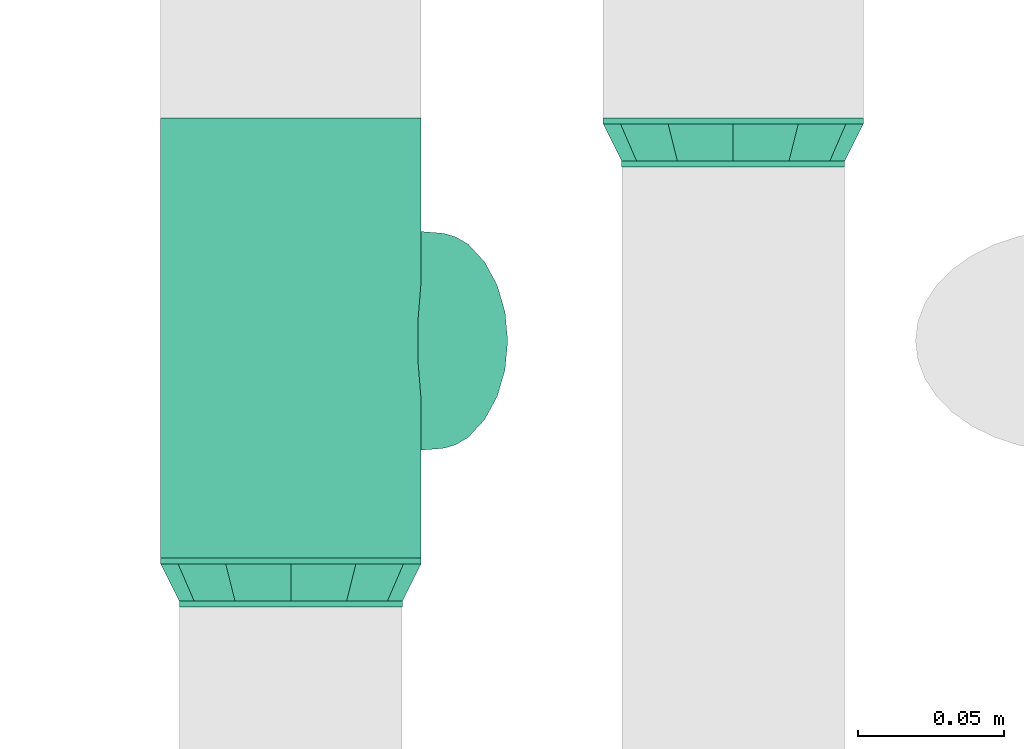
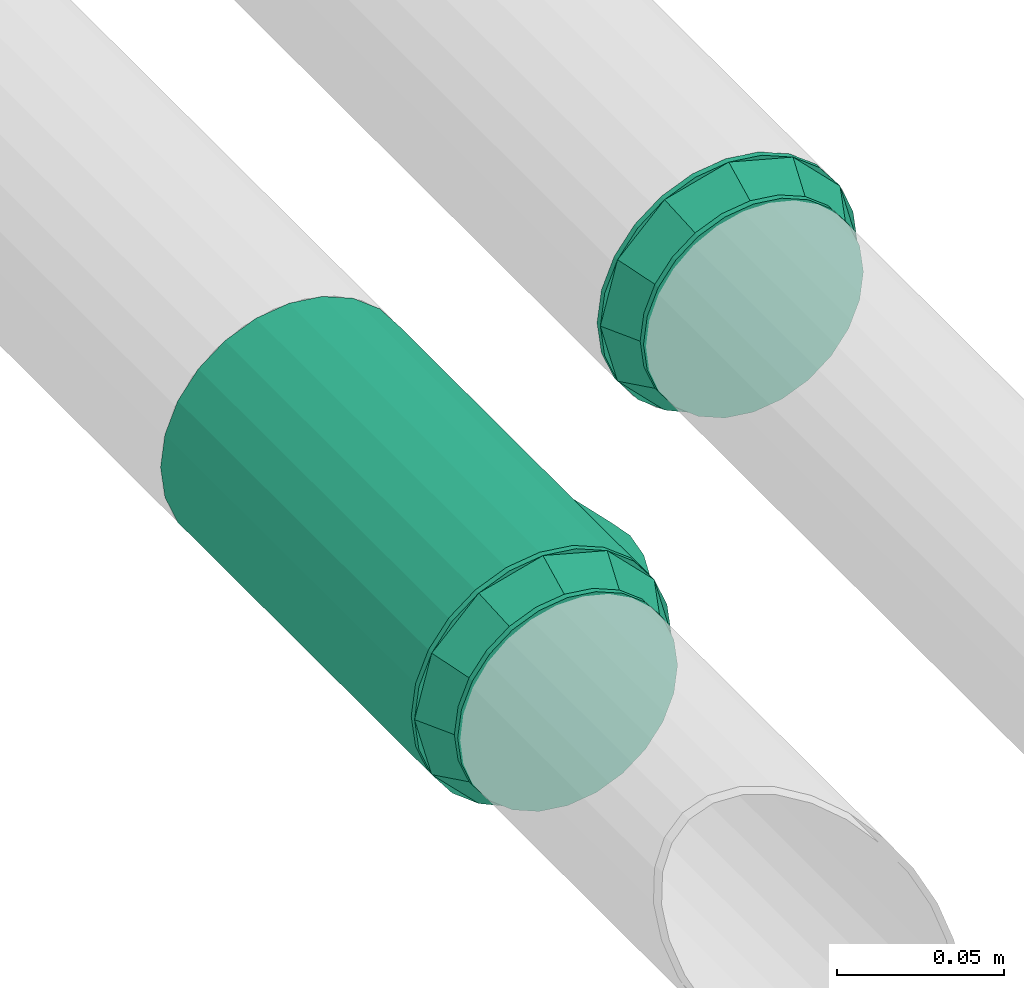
# One storey, part 119 of 156: 3 flow fittings.
"""IFC2X3 building model written with IfcOpenShell, lengths in millimetres."""

import ifcopenshell
import ifcopenshell.guid

model = None  # the IFC model being written
_history = None  # IfcOwnerHistory: only IFC2X3 demands one
_inside = {}  # id of a spatial element -> (the spatial element, [elements in it])
_under = {}  # id of a project, library or spatial element -> (it, [spatial elements below it])
_declared = {}  # id of a project -> (the project, [libraries it declares])
_typed = {}  # id of a type object -> (the type object, [elements of that type])
_made_of = {}  # id of a material, layer set ... -> (it, [elements and type objects made of it])


def new_model(schema):
    """Start an empty IFC model of exactly this schema.

    Asked for "IFC4X3", IfcOpenShell would pick the latest addendum, in which some entities
    have other attributes; the version numbers below select the first issue.
    IFC2X3 requires an IfcOwnerHistory on every rooted entity: one is made here for all.
    """
    global model, _history
    if schema == "IFC4X3":
        model = ifcopenshell.file(schema_version=(4, 3, 0, 0))
    else:
        model = ifcopenshell.file(schema=schema)
    _inside.clear()
    _under.clear()
    _declared.clear()
    _typed.clear()
    _made_of.clear()
    _history = None
    if model.schema == "IFC2X3":
        org = make("IfcOrganization", Name="unknown")
        user = make(
            "IfcPersonAndOrganization",
            ThePerson=make("IfcPerson", FamilyName="unknown"),
            TheOrganization=org,
        )
        app = make(
            "IfcApplication",
            ApplicationDeveloper=org,
            Version="unknown",
            ApplicationFullName="unknown",
            ApplicationIdentifier="unknown",
        )
        _history = make(
            "IfcOwnerHistory",
            OwningUser=user,
            OwningApplication=app,
            ChangeAction="ADDED",
            CreationDate=0,
        )
    return model


def make(cls, **values):
    """One entity of the class cls with the attributes given. An attribute that is None is left unset."""
    return model.create_entity(
        cls, **{name: value for name, value in values.items() if value is not None}
    )


def entity(cls, *values):
    """Any entity or typed value of the class cls, its attributes in the order of the schema. None: left unset."""
    e = model.create_entity(cls)
    for i, value in enumerate(values):
        if value is not None:
            e[i] = value
    return e


def rooted(cls, **values):
    """An entity with a GlobalId (a new one), such as an element, a storey or a relation."""
    return make(cls, GlobalId=ifcopenshell.guid.new(), OwnerHistory=_history, **values)


def si_unit(unit_type, name, prefix=None):
    """IfcSIUnit, for example si_unit("LENGTHUNIT", "METRE", prefix="MILLI")."""
    return make("IfcSIUnit", UnitType=unit_type, Prefix=prefix, Name=name)


def converted_unit(unit_type, name, factor, base, dimensions=None, offset=None):
    """IfcConversionBasedUnit, such as the inch: factor (a typed value) times the base unit."""
    return make(
        "IfcConversionBasedUnit"
        if offset is None
        else "IfcConversionBasedUnitWithOffset",
        ConversionOffset=offset,
        Dimensions=None
        if dimensions is None
        else entity("IfcDimensionalExponents", *dimensions),
        UnitType=unit_type,
        Name=name,
        ConversionFactor=make(
            "IfcMeasureWithUnit", ValueComponent=factor, UnitComponent=base
        ),
    )


def derived_unit(unit_type, elements):
    """IfcDerivedUnit: a product of units, each with its exponent."""
    return make(
        "IfcDerivedUnit",
        Elements=[
            make("IfcDerivedUnitElement", Unit=unit, Exponent=power)
            for unit, power in elements
        ],
        UnitType=unit_type,
    )


def assignment(units):
    """IfcUnitAssignment: the units of a project."""
    return None if units is None else make("IfcUnitAssignment", Units=units)


def point(xyz):
    """IfcCartesianPoint."""
    return None if xyz is None else make("IfcCartesianPoint", Coordinates=xyz)


def direction(xyz):
    """IfcDirection."""
    return None if xyz is None else make("IfcDirection", DirectionRatios=xyz)


def frame(location, z_axis=None, x_axis=None):
    """IfcAxis2Placement3D, a coordinate frame: its origin and axes. An axis left out is left unset."""
    return make(
        "IfcAxis2Placement3D",
        Location=point(location),
        Axis=direction(z_axis),
        RefDirection=direction(x_axis),
    )


def origin_with_axes():
    """The frame at (0, 0, 0) with the z axis (0, 0, 1) and the x axis (1, 0, 0) written out."""
    return frame((0.0, 0.0, 0.0), z_axis=(0.0, 0.0, 1.0), x_axis=(1.0, 0.0, 0.0))


def place(relative_to, where):
    """IfcLocalPlacement: puts the frame where relative to a parent placement (None: the world)."""
    return make(
        "IfcLocalPlacement", PlacementRelTo=relative_to, RelativePlacement=where
    )


def context(
    kind, dimensions, precision=None, world=None, true_north=None, identifier=None
):
    """IfcGeometricRepresentationContext, for example the 3D "Model" context."""
    return make(
        "IfcGeometricRepresentationContext",
        ContextIdentifier=identifier,
        ContextType=kind,
        CoordinateSpaceDimension=dimensions,
        Precision=precision,
        WorldCoordinateSystem=world,
        TrueNorth=true_north,
    )


def subcontext(parent, identifier, kind, view, scale=None):
    """IfcGeometricRepresentationSubContext, for example "Body" below "Model"."""
    return make(
        "IfcGeometricRepresentationSubContext",
        ContextIdentifier=identifier,
        ContextType=kind,
        ParentContext=parent,
        TargetScale=scale,
        TargetView=view,
    )


def project(units=None, contexts=None):
    """IfcProject with its units and contexts."""
    return rooted(
        "IfcProject",
        Name="project",
        RepresentationContexts=contexts,
        UnitsInContext=assignment(units),
    )


def spatial(cls, under=None, at=None, **own):
    """A site, building, storey or space (cls), placed at a placement, below another one or the project."""
    s = rooted(cls, ObjectPlacement=at, **own)
    if under is not None:
        _under.setdefault(under.id(), (under, []))[1].append(s)
    return s


def faces_of(points, faces, orient=None, outer=None):
    """IfcFace entities. A face is a list of loops; a loop is a list of indices into points, from 0.

    orient and outer hold one flag for each loop. By default every Orientation is true, the
    first loop of a face is its IfcFaceOuterBound and the others are IfcFaceBound.
    """
    made = []
    for i, loops in enumerate(faces):
        bounds = []
        for j, loop in enumerate(loops):
            is_outer = j == 0 if outer is None else outer[i][j]
            bounds.append(
                make(
                    "IfcFaceOuterBound" if is_outer else "IfcFaceBound",
                    Bound=make("IfcPolyLoop", Polygon=[points[k] for k in loop]),
                    Orientation=True if orient is None else orient[i][j],
                )
            )
        made.append(make("IfcFace", Bounds=bounds))
    return made


def open_shell(faces, orient=None, outer=None):
    """The faces of one IfcOpenShell. surface_model builds it on its shared points."""
    return ("IfcOpenShell", faces, orient, outer)


def faceted_brep(points, faces, orient=None, outer=None, voids=None):
    """IfcFacetedBrep: a solid bounded by flat faces; with voids (closed shells), ...WithVoids."""
    shared = [point(p) for p in points]
    hull = make("IfcClosedShell", CfsFaces=faces_of(shared, faces, orient, outer))
    if voids is None:
        return make("IfcFacetedBrep", Outer=hull)
    return make(
        "IfcFacetedBrepWithVoids",
        Outer=hull,
        Voids=[
            make(cls, CfsFaces=faces_of(shared, fs, o, b)) for cls, fs, o, b in voids
        ],
    )


def surface_model(cls, points, shells):
    """IfcFaceBasedSurfaceModel or IfcShellBasedSurfaceModel (cls): surfaces that need not close."""
    shared = [point(p) for p in points]
    made = [make(c, CfsFaces=faces_of(shared, fs, o, b)) for c, fs, o, b in shells]
    if cls == "IfcFaceBasedSurfaceModel":
        return make(cls, FbsmFaces=made)
    return make(cls, SbsmBoundary=made)


def shape(context_of_items, identifier, shape_type, items):
    """IfcShapeRepresentation: the items that make up one representation, for example the "Body"."""
    return make(
        "IfcShapeRepresentation",
        ContextOfItems=context_of_items,
        RepresentationIdentifier=identifier,
        RepresentationType=shape_type,
        Items=items,
    )


def source(mapping_origin, context_of_items, identifier, shape_type, items):
    """IfcRepresentationMap: a shape defined once, which mapped items show again and again."""
    return make(
        "IfcRepresentationMap",
        MappingOrigin=mapping_origin,
        MappedRepresentation=shape(context_of_items, identifier, shape_type, items),
    )


def transform(
    local_origin,
    x_axis=None,
    y_axis=None,
    z_axis=None,
    scale=None,
    scale2=None,
    scale3=None,
    uniform=True,
):
    """IfcCartesianTransformationOperator3D, or its non-uniform kind. x_axis, y_axis, z_axis: its Axis1, 2, 3."""
    if uniform:
        return make(
            "IfcCartesianTransformationOperator3D",
            Axis1=direction(x_axis),
            Axis2=direction(y_axis),
            LocalOrigin=point(local_origin),
            Scale=scale,
            Axis3=direction(z_axis),
        )
    return make(
        "IfcCartesianTransformationOperator3DnonUniform",
        Axis1=direction(x_axis),
        Axis2=direction(y_axis),
        LocalOrigin=point(local_origin),
        Scale=scale,
        Axis3=direction(z_axis),
        Scale2=scale2,
        Scale3=scale3,
    )


def mapped(mapping_source, mapping_target):
    """IfcMappedItem: shows the shape of a source again, moved by a transform."""
    return make(
        "IfcMappedItem", MappingSource=mapping_source, MappingTarget=mapping_target
    )


def made_of(thing, what):
    """Note that an element or type object is made of a material, layer set ...; save() writes the relation."""
    if what is not None:
        _made_of.setdefault(what.id(), (what, []))[1].append(thing)
    return thing


def type_object(cls, material=None, **own):
    """A type object (cls), such as IfcWallType, which elements share."""
    return made_of(rooted(cls, **own), material)


def element(
    cls,
    number,
    at=None,
    inside=None,
    cuts=None,
    type_object=None,
    material=None,
    context=None,
    identifier="Body",
    shape_type=None,
    held_by="IfcProductDefinitionShape",
    body=None,
    shapes=None,
    **own,
):
    """One element of the class cls, such as IfcWall. Its Tag is "e" and its number.

    at: its placement. inside: the storey or other place that contains it. cuts: it is an
    opening in that element (IfcRelVoidsElement). A single representation is given by context,
    identifier, shape_type and body (its items); several are given by shapes. held_by: the class
    of the entity that holds the representations. save() writes the other relations.
    """
    e = rooted(cls, Tag="e%d" % number, ObjectPlacement=at, **own)
    if body is not None:
        shapes = [shape(context, identifier, shape_type, body)]
    if shapes is not None:
        e.Representation = make(held_by, Representations=shapes)
    if inside is not None:
        _inside.setdefault(inside.id(), (inside, []))[1].append(e)
    if cuts is not None:
        rooted(
            "IfcRelVoidsElement", RelatingBuildingElement=cuts, RelatedOpeningElement=e
        )
    if type_object is not None:
        _typed.setdefault(type_object.id(), (type_object, []))[1].append(e)
    return made_of(e, material)


def aggregate(whole, parts):
    """IfcRelAggregates: a whole, such as a stair, and the parts it consists of."""
    return rooted("IfcRelAggregates", RelatingObject=whole, RelatedObjects=parts)


def save(model, path):
    """Write the relations noted so far, then the file.

    IfcRelAggregates (storeys below a building ...), IfcRelContainedInSpatialStructure (elements
    in a storey), IfcRelDefinesByType, IfcRelAssociatesMaterial and IfcRelDeclares: one each for
    every whole, place, type object, material and project.
    """
    for whole, parts in _under.values():
        aggregate(whole, parts)
    for where, things in _inside.values():
        rooted(
            "IfcRelContainedInSpatialStructure",
            RelatedElements=things,
            RelatingStructure=where,
        )
    for kind, things in _typed.values():
        rooted("IfcRelDefinesByType", RelatedObjects=things, RelatingType=kind)
    for what, things in _made_of.values():
        rooted("IfcRelAssociatesMaterial", RelatedObjects=things, RelatingMaterial=what)
    for by, libraries in _declared.values():
        rooted("IfcRelDeclares", RelatingContext=by, RelatedDefinitions=libraries)
    model.write(path)


model = new_model("IFC2X3")

# Units and contexts
model_context = context("Model", 3, precision=0.01, world=frame((0.0, 4.29681676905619e-09, 0.0)), true_north=direction((4.01073788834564e-13, 1.0)))
plan_context = context("Plan", 3, precision=0.01, world=frame((0.0, 4.29681676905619e-09, 0.0)), true_north=direction((4.01073788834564e-13, 1.0)))
body_context = subcontext(model_context, "Body", "Model", "MODEL_VIEW")
ifc_project = project(units=[converted_unit("PLANEANGLEUNIT", "DEGREE", entity("IfcPositiveLengthMeasure", 0.0174532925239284), si_unit("PLANEANGLEUNIT", "RADIAN"), dimensions=[0, 0, 0, 0, 0, 0, 0]), si_unit("AREAUNIT", "SQUARE_METRE"), si_unit("LENGTHUNIT", "METRE", prefix="MILLI"), si_unit("MASSUNIT", "GRAM", prefix="KILO"), si_unit("POWERUNIT", "WATT"), si_unit("PRESSUREUNIT", "PASCAL", prefix="KILO"), si_unit("FORCEUNIT", "NEWTON", prefix="KILO"), si_unit("ELECTRICVOLTAGEUNIT", "VOLT"), si_unit("ELECTRICCURRENTUNIT", "AMPERE"), si_unit("THERMODYNAMICTEMPERATUREUNIT", "DEGREE_CELSIUS"), si_unit("TIMEUNIT", "SECOND"), si_unit("VOLUMEUNIT", "CUBIC_METRE"), derived_unit("LINEARVELOCITYUNIT", [(si_unit("LENGTHUNIT", "METRE"), 1), (si_unit("TIMEUNIT", "SECOND"), -1)]), derived_unit("VOLUMETRICFLOWRATEUNIT", [(si_unit("VOLUMEUNIT", "CUBIC_METRE"), 1), (si_unit("TIMEUNIT", "SECOND"), -1)]), derived_unit("THERMALTRANSMITTANCEUNIT", [(si_unit("POWERUNIT", "WATT"), 1), (si_unit("THERMODYNAMICTEMPERATUREUNIT", "KELVIN"), -1), (si_unit("AREAUNIT", "SQUARE_METRE"), -1)]), derived_unit("SOUNDPRESSUREUNIT", [(si_unit("PRESSUREUNIT", "PASCAL"), 1)])], contexts=[model_context, plan_context])

# Site, building, storey
site_placement = place(None, frame((0.0, -4.29681676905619e-09, 0.0), z_axis=(0.0, 0.0, 1.0), x_axis=(1.0, 0.0, 0.0)))
site = spatial("IfcSite", under=ifc_project, at=site_placement, CompositionType="ELEMENT")
building_placement = place(site_placement, frame((0.0, 4.29681676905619e-09, 0.0), z_axis=(0.0, 0.0, 1.0), x_axis=(1.0, 0.0, 0.0)))
building = spatial("IfcBuilding", under=site, at=building_placement, Name="mc-building", CompositionType="ELEMENT")
storey_placement = place(building_placement, frame((0.0, 0.0, 205200.0), z_axis=(0.0, 0.0, 1.0), x_axis=(1.0, 0.0, 0.0)))
storey = spatial("IfcBuildingStorey", under=building, at=storey_placement, Name="Nivå D + 1,2 m", CompositionType="ELEMENT", Elevation=205200.0)

# Flow fittings
pipe_fitting_type_1 = type_object("IfcPipeFittingType", Name="magi_pipe_fe_reducer_centric_short_001", PredefinedType="TRANSITION")
shared_shape_1 = source(origin_with_axes(), body_context, "Body", "SurfaceModel", [
    surface_model("IfcShellBasedSurfaceModel", [(-2.0, 0.0, 44.5), (-2.0, 11.51745, 42.9837), (-2.0, 22.25, 38.53813), (-2.0, 31.46625, 31.46625), (-2.0, 38.53813, 22.25), (-2.0, 42.9837, 11.51745), (-2.0, -42.9837, 11.51745), (-2.0, -11.51745, 42.9837), (-2.0, -31.46625, 31.46625), (-2.0, -22.25, 38.53813), (-2.0, -38.53813, 22.25), (-2.0, -42.9837, -11.51745), (-2.0, -44.5, 0.0), (-2.0, 11.51745, -42.9837), (-2.0, 44.5, 0.0), (-2.0, 42.9837, -11.51745), (-2.0, 38.53813, -22.25), (-2.0, 31.46625, -31.46625), (-2.0, 22.25, -38.53813), (-2.0, 0.0, -44.5), (-2.0, -31.46625, -31.46625), (-2.0, -38.53813, -22.25), (-2.0, -22.25, -38.53813), (-2.0, -11.51745, -42.9837), (0.0, 22.25, -38.53813), (0.0, -42.9837, -11.51745), (0.0, 11.51745, -42.9837), (0.0, 42.9837, -11.51745), (0.0, 31.46625, -31.46625), (0.0, 44.5, 0.0), (0.0, 38.53813, -22.25), (0.0, 0.0, -44.5), (0.0, -22.25, -38.53813), (0.0, -11.51745, -42.9837), (0.0, -31.46625, -31.46625), (0.0, -38.53813, -22.25), (0.0, 42.9837, 11.51745), (0.0, 38.53813, 22.25), (0.0, 31.46625, 31.46625), (0.0, -42.9837, 11.51745), (0.0, 22.25, 38.53813), (0.0, 11.51745, 42.9837), (0.0, 0.0, 44.5), (0.0, -31.46625, 31.46625), (0.0, -38.53813, 22.25), (0.0, -44.5, 0.0), (0.0, -11.51745, 42.9837), (0.0, -22.25, 38.53813), (14.8, 9.86101, -36.80177), (14.8, 19.05, -32.99557), (14.8, 26.94077, -26.94077), (14.8, -19.05, -32.99557), (14.8, 36.80177, -9.86101), (14.8, 32.99557, -19.05), (14.8, -38.1, 0.0), (14.8, 0.0, -38.1), (14.8, -9.86101, -36.80177), (14.8, -26.94077, -26.94077), (14.8, -32.99557, -19.05), (14.8, -36.80177, -9.86101), (14.8, 38.1, 0.0), (14.8, 36.80177, 9.86101), (14.8, 32.99557, 19.05), (14.8, 26.94077, 26.94077), (14.8, 19.05, 32.99557), (14.8, 9.86101, 36.80177), (14.8, 0.0, 38.1), (14.8, -32.99557, 19.05), (14.8, -36.80177, 9.86101), (14.8, -9.86101, 36.80177), (14.8, -19.05, 32.99557), (14.8, -26.94077, 26.94077), (12.8, 0.0, 38.1), (12.8, 9.86101, 36.80177), (12.8, 19.05, 32.99557), (12.8, -32.99557, -19.05), (12.8, 26.94077, 26.94077), (12.8, 32.99557, 19.05), (12.8, 36.80177, 9.86101), (12.8, -38.1, 0.0), (12.8, -19.05, 32.99557), (12.8, -32.99557, 19.05), (12.8, -26.94077, 26.94077), (12.8, -9.86101, 36.80177), (12.8, -36.80177, 9.86101), (12.8, -19.05, -32.99557), (12.8, 36.80177, -9.86101), (12.8, 9.86101, -36.80177), (12.8, 26.94077, -26.94077), (12.8, 32.99557, -19.05), (12.8, 19.05, -32.99557), (12.8, 0.0, -38.1), (12.8, -26.94077, -26.94077), (12.8, -36.80177, -9.86101), (12.8, -9.86101, -36.80177), (12.8, 38.1, 0.0), (12.8, 26.02278, -26.02278), (0.0, 30.39407, -30.39407), (0.0, 41.51906, -11.125), (12.8, 35.54778, -9.525), (0.0, -40.63343, -14.43025), (12.8, -35.54778, -9.525), (0.0, 11.125, -41.51906), (12.8, 9.525, -35.54778), (0.0, -30.39407, -30.39407), (12.8, -26.02278, -26.02278), (0.0, -11.125, -41.51906), (12.8, -9.525, -35.54778), (12.8, -26.02278, 26.02278), (0.0, -30.39407, 30.39407), (0.0, -41.51906, 11.125), (12.8, -35.54778, 9.525), (0.0, 40.63343, 14.43025), (12.8, 35.54778, 9.525), (0.0, -11.125, 41.51906), (12.8, -9.525, 35.54778), (0.0, 30.39407, 30.39407), (12.8, 26.02278, 26.02278), (0.0, 11.125, 41.51906), (12.8, 9.525, 35.54778)], [open_shell([[[0, 1, 2]], [[0, 2, 3]], [[3, 4, 5]], [[0, 3, 6]], [[6, 3, 5]], [[7, 8, 9]], [[7, 0, 8]], [[8, 6, 10]], [[0, 6, 8]], [[6, 11, 12]], [[6, 5, 11]], [[13, 14, 15]], [[13, 15, 16]], [[17, 18, 13]], [[17, 13, 16]], [[14, 13, 19]], [[11, 20, 21]], [[20, 11, 22]], [[22, 19, 23]], [[19, 22, 11]], [[11, 14, 19]], [[14, 11, 5]], [[24, 25, 26]], [[27, 24, 28]], [[27, 29, 24]], [[27, 28, 30]], [[25, 24, 29]], [[31, 32, 33]], [[32, 31, 25]], [[34, 25, 35]], [[25, 34, 32]], [[31, 26, 25]], [[29, 36, 25]], [[36, 37, 38]], [[39, 36, 38]], [[40, 41, 42]], [[40, 42, 38]], [[39, 38, 42]], [[39, 43, 44]], [[45, 25, 39]], [[43, 46, 47]], [[43, 39, 42]], [[46, 43, 42]], [[39, 25, 36]], [[11, 25, 12]], [[21, 35, 11]], [[32, 20, 22]], [[21, 20, 34]], [[33, 22, 23]], [[11, 35, 25]], [[25, 45, 12]], [[33, 32, 22]], [[34, 20, 32]], [[34, 35, 21]], [[31, 33, 23]], [[23, 19, 31]], [[13, 26, 19]], [[18, 24, 13]], [[30, 17, 16]], [[18, 17, 28]], [[27, 16, 15]], [[18, 28, 24]], [[24, 26, 13]], [[29, 27, 15]], [[30, 16, 27]], [[30, 28, 17]], [[14, 29, 15]], [[19, 26, 31]], [[5, 36, 14]], [[4, 37, 5]], [[40, 3, 2]], [[4, 3, 38]], [[41, 2, 1]], [[5, 37, 36]], [[36, 29, 14]], [[41, 40, 2]], [[38, 3, 40]], [[38, 37, 4]], [[42, 41, 1]], [[1, 0, 42]], [[7, 46, 0]], [[9, 47, 7]], [[44, 8, 10]], [[9, 8, 43]], [[39, 10, 6]], [[9, 43, 47]], [[47, 46, 7]], [[45, 39, 6]], [[44, 10, 39]], [[44, 43, 8]], [[12, 45, 6]], [[0, 46, 42]], [[42, 40, 37]], [[42, 37, 44]], [[42, 44, 47]], [[44, 37, 45]], [[37, 31, 45]], [[24, 37, 30]], [[37, 24, 31]], [[32, 35, 45]], [[45, 31, 32]], [[37, 29, 30]], [[48, 49, 50]], [[51, 48, 50]], [[51, 50, 52]], [[52, 50, 53]], [[51, 52, 54]], [[55, 51, 56]], [[55, 48, 51]], [[57, 54, 58]], [[54, 57, 51]], [[54, 59, 58]], [[52, 60, 61]], [[61, 62, 63]], [[61, 63, 64]], [[64, 65, 66]], [[64, 66, 61]], [[66, 54, 52]], [[54, 67, 68]], [[67, 54, 69]], [[67, 70, 71]], [[70, 67, 69]], [[54, 66, 69]], [[66, 52, 61]], [[72, 73, 74]], [[75, 72, 74]], [[76, 77, 78]], [[74, 76, 75]], [[79, 72, 75]], [[80, 81, 82]], [[80, 83, 72]], [[81, 79, 84]], [[79, 81, 80]], [[72, 79, 80]], [[78, 85, 76]], [[78, 86, 87]], [[88, 86, 89]], [[90, 87, 86]], [[90, 86, 88]], [[78, 87, 91]], [[92, 75, 76]], [[93, 79, 75]], [[85, 91, 94]], [[92, 76, 85]], [[78, 91, 85]], [[78, 95, 86]], [[93, 59, 79]], [[75, 58, 93]], [[51, 92, 85]], [[75, 92, 57]], [[56, 85, 94]], [[93, 58, 59]], [[59, 54, 79]], [[56, 51, 85]], [[57, 92, 51]], [[57, 58, 75]], [[55, 56, 94]], [[94, 91, 55]], [[87, 48, 91]], [[90, 49, 87]], [[53, 88, 89]], [[90, 88, 50]], [[52, 89, 86]], [[90, 50, 49]], [[49, 48, 87]], [[60, 52, 86]], [[53, 89, 52]], [[53, 50, 88]], [[95, 60, 86]], [[91, 48, 55]], [[78, 61, 95]], [[77, 62, 78]], [[64, 76, 74]], [[77, 76, 63]], [[65, 74, 73]], [[78, 62, 61]], [[61, 60, 95]], [[65, 64, 74]], [[63, 76, 64]], [[63, 62, 77]], [[66, 65, 73]], [[73, 72, 66]], [[83, 69, 72]], [[80, 70, 83]], [[67, 82, 81]], [[80, 82, 71]], [[68, 81, 84]], [[80, 71, 70]], [[70, 69, 83]], [[54, 68, 84]], [[67, 81, 68]], [[67, 71, 82]], [[79, 54, 84]], [[72, 69, 66]], [[95, 72, 80]], [[95, 80, 81]], [[74, 95, 77]], [[95, 74, 72]], [[81, 85, 95]], [[75, 85, 81]], [[85, 91, 95]], [[95, 90, 89]], [[95, 91, 90]], [[79, 75, 81]], [[30, 89, 96]], [[90, 97, 96]], [[97, 90, 24]], [[98, 99, 89]], [[45, 100, 101]], [[29, 95, 99]], [[102, 24, 103]], [[96, 97, 30]], [[91, 31, 102]], [[100, 75, 101]], [[89, 30, 98]], [[91, 102, 103]], [[29, 99, 98]], [[24, 90, 103]], [[101, 79, 45]], [[104, 105, 75]], [[32, 105, 104]], [[106, 31, 107]], [[85, 106, 107]], [[32, 85, 105]], [[35, 75, 100]], [[31, 91, 107]], [[85, 32, 106]], [[75, 35, 104]], [[44, 81, 108]], [[80, 109, 108]], [[109, 80, 47]], [[110, 111, 81]], [[29, 112, 113]], [[45, 79, 111]], [[114, 47, 115]], [[108, 109, 44]], [[72, 42, 114]], [[112, 77, 113]], [[81, 44, 110]], [[72, 114, 115]], [[45, 111, 110]], [[47, 80, 115]], [[113, 95, 29]], [[116, 117, 77]], [[40, 117, 116]], [[118, 42, 119]], [[74, 118, 119]], [[40, 74, 117]], [[37, 77, 112]], [[42, 72, 119]], [[74, 40, 118]], [[77, 37, 116]]])]),
])
flow_fitting_1_placement = place(storey_placement, frame((326883.94863, 461496.23973, 4038.0), z_axis=(0.0, 0.0, 1.0), x_axis=(0.0, -1.0, 0.0)))
element("IfcFlowFitting", 1, at=flow_fitting_1_placement, inside=storey, type_object=pipe_fitting_type_1, Name="magi_pipe_fe_reducer_centric_short_001", context=body_context, shape_type="MappedRepresentation", body=[
    mapped(shared_shape_1, transform((0.0, 0.0, 0.0), scale=1.0)),
])
shared_shape_2 = source(origin_with_axes(), body_context, "Body", "SurfaceModel", [
    surface_model("IfcShellBasedSurfaceModel", [(-2.0, 0.0, 44.5), (-2.0, 11.51745, 42.9837), (-2.0, 22.25, 38.53813), (-2.0, -11.51745, 42.9837), (-2.0, -31.46625, 31.46625), (-2.0, -22.25, 38.53813), (-2.0, 31.46625, -31.46625), (-2.0, 22.25, -38.53813), (-2.0, 11.51745, -42.9837), (-2.0, -22.25, -38.53813), (-2.0, 0.0, -44.5), (-2.0, -11.51745, -42.9837), (-2.0, 44.5, 0.0), (-2.0, -42.9837, -11.51745), (-2.0, 42.9837, 11.51745), (0.0, 42.9837, -11.51745), (0.0, 31.46625, -31.46625), (0.0, 38.53813, -22.25), (0.0, 0.0, -44.5), (0.0, -22.25, -38.53813), (0.0, -11.51745, -42.9837), (0.0, 22.25, 38.53813), (0.0, 11.51745, 42.9837), (0.0, 0.0, 44.5), (0.0, -31.46625, 31.46625), (0.0, -11.51745, 42.9837), (0.0, -22.25, 38.53813), (0.0, -42.9837, -11.51745), (-2.0, -44.5, 0.0), (-2.0, -38.53813, -22.25), (0.0, -38.53813, -22.25), (-2.0, -31.46625, -31.46625), (0.0, -31.46625, -31.46625), (0.0, -44.5, 0.0), (0.0, 11.51745, -42.9837), (0.0, 22.25, -38.53813), (-2.0, 38.53813, -22.25), (-2.0, 42.9837, -11.51745), (0.0, 44.5, 0.0), (0.0, 42.9837, 11.51745), (-2.0, 38.53813, 22.25), (0.0, 38.53813, 22.25), (-2.0, 31.46625, 31.46625), (0.0, 31.46625, 31.46625), (0.0, -38.53813, 22.25), (-2.0, -38.53813, 22.25), (0.0, -42.9837, 11.51745), (-2.0, -42.9837, 11.51745), (14.8, 9.86101, -36.80177), (14.8, 19.05, -32.99557), (14.8, 26.94077, -26.94077), (14.8, -19.05, -32.99557), (14.8, 36.80177, -9.86101), (14.8, 32.99557, -19.05), (14.8, -38.1, 0.0), (14.8, 0.0, -38.1), (14.8, -9.86101, -36.80177), (14.8, -26.94077, -26.94077), (14.8, -32.99557, -19.05), (14.8, -36.80177, -9.86101), (14.8, 38.1, 0.0), (14.8, 36.80177, 9.86101), (14.8, 32.99557, 19.05), (14.8, 26.94077, 26.94077), (14.8, 19.05, 32.99557), (14.8, 9.86101, 36.80177), (14.8, 0.0, 38.1), (14.8, -32.99557, 19.05), (14.8, -36.80177, 9.86101), (14.8, -9.86101, 36.80177), (14.8, -19.05, 32.99557), (14.8, -26.94077, 26.94077), (12.8, 0.0, 38.1), (12.8, 9.86101, 36.80177), (12.8, 19.05, 32.99557), (12.8, -32.99557, -19.05), (12.8, 26.94077, 26.94077), (12.8, 32.99557, 19.05), (12.8, 36.80177, 9.86101), (12.8, -38.1, 0.0), (12.8, -19.05, 32.99557), (12.8, -32.99557, 19.05), (12.8, -26.94077, 26.94077), (12.8, -9.86101, 36.80177), (12.8, -36.80177, 9.86101), (12.8, -19.05, -32.99557), (12.8, 36.80177, -9.86101), (12.8, 9.86101, -36.80177), (12.8, 26.94077, -26.94077), (12.8, 32.99557, -19.05), (12.8, 19.05, -32.99557), (12.8, 0.0, -38.1), (12.8, -26.94077, -26.94077), (12.8, -36.80177, -9.86101), (12.8, -9.86101, -36.80177), (12.8, 38.1, 0.0), (12.8, 26.02278, -26.02278), (0.0, 30.39407, -30.39407), (0.0, 41.51906, -11.125), (12.8, 35.54778, -9.525), (0.0, -40.63343, -14.43025), (12.8, -35.54778, -9.525), (0.0, 11.125, -41.51906), (12.8, 9.525, -35.54778), (0.0, -30.39407, -30.39407), (12.8, -26.02278, -26.02278), (0.0, -11.125, -41.51906), (12.8, -9.525, -35.54778), (12.8, -26.02278, 26.02278), (0.0, -30.39407, 30.39407), (0.0, -41.51906, 11.125), (12.8, -35.54778, 9.525), (0.0, 40.63343, 14.43025), (12.8, 35.54778, 9.525), (0.0, -11.125, 41.51906), (12.8, -9.525, 35.54778), (0.0, 30.39407, 30.39407), (12.8, 26.02278, 26.02278), (0.0, 11.125, 41.51906), (12.8, 9.525, 35.54778)], [open_shell([[[0, 1, 2]], [[3, 4, 5]], [[6, 7, 8]], [[9, 10, 11]], [[12, 13, 14]], [[15, 16, 17]], [[18, 19, 20]], [[21, 22, 23]], [[24, 25, 26]], [[13, 27, 28]], [[29, 30, 13]], [[19, 31, 9]], [[29, 31, 32]], [[20, 9, 11]], [[13, 30, 27]], [[27, 33, 28]], [[20, 19, 9]], [[32, 31, 19]], [[32, 30, 29]], [[18, 20, 11]], [[11, 10, 18]], [[8, 34, 10]], [[7, 35, 8]], [[17, 6, 36]], [[7, 6, 16]], [[15, 36, 37]], [[7, 16, 35]], [[35, 34, 8]], [[38, 15, 37]], [[17, 36, 15]], [[17, 16, 6]], [[12, 38, 37]], [[10, 34, 18]], [[14, 39, 12]], [[40, 41, 14]], [[21, 42, 2]], [[40, 42, 43]], [[22, 2, 1]], [[14, 41, 39]], [[39, 38, 12]], [[22, 21, 2]], [[43, 42, 21]], [[43, 41, 40]], [[23, 22, 1]], [[1, 0, 23]], [[3, 25, 0]], [[5, 26, 3]], [[44, 4, 45]], [[5, 4, 24]], [[46, 45, 47]], [[5, 24, 26]], [[26, 25, 3]], [[33, 46, 47]], [[44, 45, 46]], [[44, 24, 4]], [[28, 33, 47]], [[0, 25, 23]], [[44, 41, 33]], [[41, 18, 33]], [[35, 41, 17]], [[41, 35, 18]], [[19, 30, 33]], [[33, 18, 19]], [[41, 38, 17]], [[48, 49, 50]], [[51, 48, 50]], [[51, 50, 52]], [[52, 50, 53]], [[51, 52, 54]], [[55, 51, 56]], [[55, 48, 51]], [[57, 54, 58]], [[54, 57, 51]], [[54, 59, 58]], [[52, 60, 61]], [[61, 62, 63]], [[61, 63, 64]], [[64, 65, 66]], [[64, 66, 61]], [[66, 54, 52]], [[54, 67, 68]], [[67, 54, 69]], [[67, 70, 71]], [[70, 67, 69]], [[54, 66, 69]], [[66, 52, 61]], [[72, 73, 74]], [[75, 72, 74]], [[76, 77, 78]], [[74, 76, 75]], [[79, 72, 75]], [[80, 81, 82]], [[80, 83, 72]], [[81, 79, 84]], [[79, 81, 80]], [[72, 79, 80]], [[78, 85, 76]], [[78, 86, 87]], [[88, 86, 89]], [[90, 87, 86]], [[90, 86, 88]], [[78, 87, 91]], [[92, 75, 76]], [[93, 79, 75]], [[85, 91, 94]], [[92, 76, 85]], [[78, 91, 85]], [[78, 95, 86]], [[93, 59, 79]], [[75, 58, 93]], [[51, 92, 85]], [[75, 92, 57]], [[56, 85, 94]], [[93, 58, 59]], [[59, 54, 79]], [[56, 51, 85]], [[57, 92, 51]], [[57, 58, 75]], [[55, 56, 94]], [[94, 91, 55]], [[87, 48, 91]], [[90, 49, 87]], [[53, 88, 89]], [[90, 88, 50]], [[52, 89, 86]], [[90, 50, 49]], [[49, 48, 87]], [[60, 52, 86]], [[53, 89, 52]], [[53, 50, 88]], [[95, 60, 86]], [[91, 48, 55]], [[78, 61, 95]], [[77, 62, 78]], [[64, 76, 74]], [[77, 76, 63]], [[65, 74, 73]], [[78, 62, 61]], [[61, 60, 95]], [[65, 64, 74]], [[63, 76, 64]], [[63, 62, 77]], [[66, 65, 73]], [[73, 72, 66]], [[83, 69, 72]], [[80, 70, 83]], [[67, 82, 81]], [[80, 82, 71]], [[68, 81, 84]], [[80, 71, 70]], [[70, 69, 83]], [[54, 68, 84]], [[67, 81, 68]], [[67, 71, 82]], [[79, 54, 84]], [[72, 69, 66]], [[81, 85, 95]], [[95, 90, 89]], [[95, 91, 90]], [[17, 89, 96]], [[90, 97, 96]], [[97, 90, 35]], [[98, 99, 89]], [[33, 100, 101]], [[38, 95, 99]], [[102, 35, 103]], [[96, 97, 17]], [[91, 18, 102]], [[100, 75, 101]], [[89, 17, 98]], [[91, 102, 103]], [[38, 99, 98]], [[35, 90, 103]], [[101, 79, 33]], [[104, 105, 75]], [[19, 105, 104]], [[106, 18, 107]], [[85, 106, 107]], [[19, 85, 105]], [[30, 75, 100]], [[18, 91, 107]], [[85, 19, 106]], [[75, 30, 104]], [[44, 81, 108]], [[80, 109, 108]], [[109, 80, 26]], [[110, 111, 81]], [[38, 112, 113]], [[33, 79, 111]], [[114, 26, 115]], [[108, 109, 44]], [[72, 23, 114]], [[112, 77, 113]], [[81, 44, 110]], [[72, 114, 115]], [[33, 111, 110]], [[26, 80, 115]], [[113, 95, 38]], [[116, 117, 77]], [[21, 117, 116]], [[118, 23, 119]], [[74, 118, 119]], [[21, 74, 117]], [[41, 77, 112]], [[23, 72, 119]], [[74, 21, 118]], [[77, 41, 116]], [[45, 0, 2]], [[40, 45, 42]], [[42, 45, 2]], [[45, 40, 14]], [[4, 3, 45]], [[45, 28, 47]], [[45, 3, 0]], [[14, 28, 45]], [[14, 13, 28]], [[6, 12, 37]], [[6, 37, 36]], [[6, 8, 12]], [[12, 8, 9]], [[29, 9, 31]], [[29, 13, 12]], [[9, 29, 12]], [[10, 9, 8]], [[34, 35, 16]], [[34, 16, 15]], [[34, 15, 19]], [[44, 19, 15]], [[18, 34, 19]], [[19, 30, 32]], [[19, 44, 30]], [[30, 33, 27]], [[38, 44, 15]], [[38, 41, 44]], [[43, 44, 41]], [[43, 21, 44]], [[21, 23, 44]], [[33, 44, 46]], [[30, 44, 33]], [[25, 24, 44]], [[23, 25, 44]], [[41, 38, 39]], [[26, 23, 21]], [[44, 21, 41]], [[21, 44, 26]], [[72, 80, 81]], [[72, 81, 77]], [[72, 77, 74]], [[77, 81, 95]], [[85, 81, 75]], [[95, 85, 91]], [[75, 81, 79]]])]),
])
flow_fitting_2_placement = place(storey_placement, frame((327035.15172, 461646.62228, 4038.0), z_axis=(0.0, 0.0, 1.0), x_axis=(0.0, -1.0, 0.0)))
element("IfcFlowFitting", 2, at=flow_fitting_2_placement, inside=storey, type_object=pipe_fitting_type_1, Name="magi_pipe_fe_reducer_centric_short_001", context=body_context, shape_type="MappedRepresentation", body=[
    mapped(shared_shape_2, transform((0.0, 0.0, 0.0), scale=1.0)),
])
pipe_fitting_type_2 = type_object("IfcPipeFittingType", Name="magi_pipe_fe_tee_centric_90_001", PredefinedType="JUNCTION")
flow_fitting_3_placement = place(storey_placement, frame((326883.94863, 461572.43973, 4038.0), z_axis=(-0.707106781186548, 0.0, -0.707106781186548), x_axis=(0.0, -1.0, 0.0)))
element("IfcFlowFitting", 3, at=flow_fitting_3_placement, inside=storey, type_object=pipe_fitting_type_2, Name="magi_pipe_fe_tee_centric_90_001", context=body_context, shape_type="Brep", body=[
    faceted_brep([(-76.2, 31.46625, -31.46625), (-76.2, 0.0, -44.5), (-76.2, 11.51745, -42.9837), (-76.2, -31.46625, -31.46625), (-76.2, -44.5, 0.0), (-76.2, -38.53813, -22.25), (-76.2, -42.9837, -11.51745), (-76.2, 22.25, 38.53813), (-76.2, -15.2019853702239, 38.53813), (-76.2, -31.87776730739, 21.8623480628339), (-76.2, -10.844951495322, 42.895163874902), (-76.2, -10.6410329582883, 43.0990824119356), (-76.2, 0.0, 44.5), (-76.2, 11.51745, 42.9837), (-76.2, -41.1178826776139, 12.62223269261), (-76.2, -43.0990824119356, 10.6410329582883), (-76.2, 38.53813, -22.25), (-76.2, 42.9837, -11.51745), (-76.2, 44.5, 0.0), (-76.2, 42.9837, 11.51745), (-76.2, 31.46625, 31.46625), (-76.2, 38.53813, 22.25), (-76.2, -11.51745, -42.9837), (-76.2, -22.25, -38.53813), (-76.2, 22.25, -38.53813), (76.2, 11.51745, -42.9837), (76.2, 0.0, -44.5), (76.2, 31.46625, -31.46625), (76.2, -31.46625, -31.46625), (76.2, -11.51745, -42.9837), (76.2, -22.25, -38.53813), (76.2, 38.53813, -22.25), (76.2, 44.5, 0.0), (76.2, 22.25, 38.53813), (76.2, 31.46625, 31.46625), (76.2, 42.9837, 11.51745), (76.2, 38.53813, 22.25), (76.2, -23.3185682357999, 30.421547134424), (76.2, -15.2019853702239, 38.53813), (76.2, -12.62223269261, 41.1178826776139), (76.2, 0.0, 44.5), (76.2, -10.6410329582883, 43.0990824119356), (76.2, 11.51745, 42.9837), (76.2, -31.87776730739, 21.8623480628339), (76.2, -44.5, 0.0), (76.2, -41.1178826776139, 12.62223269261), (76.2, -43.0990824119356, 10.6410329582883), (76.2, -38.53813, -22.25), (76.2, -42.9837, -11.51745), (76.2, 42.9837, -11.51745), (76.2, 22.25, -38.53813), (69.0749484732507, -43.0603513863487, 10.6797639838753), (76.2, -43.0990819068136, 10.6410360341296), (76.2, -43.74185, 5.75872), (36.81168, -43.40744, 6.8866), (36.0454360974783, -42.7576267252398, 10.9824886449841), (64.6031658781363, -10.6410329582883, 43.0990824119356), (7.00805, -24.03649, -37.44993), (-7.03094, -24.04317, -37.44564), (-19.15174, -29.92373, -32.93662), (-76.2, -35.00219, -26.85813), (-28.7523, -36.81487, -24.9983), (-32.13988, -39.5666, -19.38046), (-76.2, -40.76092, -16.88372), (-35.52746, -42.31832, -13.76261), (-36.81373, -43.40916, -6.8813), (-76.2, -43.74185, -5.75872), (-38.1, -44.5, 0.0), (-76.2, -43.74185, 5.75872), (-36.81373, -43.40916, 6.8813), (-76.2, -43.0990844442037, 10.6410167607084), (-69.0813768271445, -43.0605970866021, 10.6795182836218), (-36.0474384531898, -42.7592952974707, 10.9808200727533), (19.15496, -29.92579, -32.93474), (76.2, -35.00219, -26.85813), (28.7515, -36.81425, -24.99922), (32.13743, -39.56456, -19.38621), (76.2, -40.76092, -16.88372), (35.52336, -42.31488, -13.7732), (36.81168, -43.40744, -6.8866), (76.2, -43.74185, -5.75872), (38.1, -44.5, 0.0), (19.05, -66.75, -32.99557), (9.86101, -66.75, -36.80177), (0.0, -66.75, -38.1), (26.94077, -66.75, -26.94077), (32.698076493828, -66.75, -13.0098846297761), (34.9837671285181, -66.75, -13.0098846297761), (6.72287595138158, -66.75, -13.0098846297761), (0.0, -66.75, -13.0098846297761), (-21.1704081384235, -66.75, -13.0098846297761), (-26.94077, -66.75, -26.94077), (-28.7748059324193, -66.75, -13.0098846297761), (-34.9837671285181, -66.75, -13.0098846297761), (-35.497464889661, -66.75, -13.0098846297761), (-32.99557, -66.75, -19.05), (-9.86101, -66.75, -36.80177), (-19.05, -66.75, -32.99557), (35.497464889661, -66.75, -13.0098846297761), (32.99557, -66.75, -19.05), (-36.8121624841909, -46.4682850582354, 7.27183031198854), (-37.0833115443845, -48.3010253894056, 5.43908998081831), (-38.1, -53.7401153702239, 0.0), (-37.5462925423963, -56.7023450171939, -2.96222964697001), (-36.803619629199, -63.1403094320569, -9.40019406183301), (-36.6601470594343, -64.03473733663, -10.2946219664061), (-35.4830537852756, -66.75, -13.0446761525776), (-0.01144, -24.03983, -37.44778), (35.4830437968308, -66.75, -13.0447002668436), (36.6597617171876, -64.0356990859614, -10.2955837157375), (36.8033020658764, -63.141287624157, -9.40117225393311), (37.5455388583, -56.703938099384, -2.96382272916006), (38.1, -53.7401153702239, 0.0), (37.0814696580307, -48.2956519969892, 5.44446337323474), (36.8103823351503, -46.4640312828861, 7.27608408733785)], [[[0, 1, 2]], [[1, 0, 3]], [[0, 4, 3]], [[4, 5, 3]], [[5, 4, 6]], [[7, 4, 0]], [[8, 9, 4, 7]], [[10, 8, 7]], [[11, 10, 7, 12]], [[12, 7, 13]], [[9, 14, 4]], [[14, 15, 4]], [[7, 0, 16]], [[7, 16, 17]], [[7, 17, 18]], [[7, 18, 19]], [[7, 19, 20]], [[20, 19, 21]], [[22, 1, 3]], [[22, 3, 23]], [[0, 2, 24]], [[25, 26, 27]], [[26, 28, 27]], [[28, 26, 29]], [[30, 28, 29]], [[31, 27, 28]], [[28, 32, 31]], [[32, 28, 33]], [[34, 32, 33]], [[35, 32, 34]], [[36, 35, 34]], [[37, 38, 33, 28]], [[38, 39, 40, 33]], [[39, 41, 40]], [[42, 33, 40]], [[43, 37, 28, 44]], [[45, 43, 44]], [[46, 45, 44]], [[28, 47, 44]], [[48, 44, 47]], [[32, 49, 31]], [[50, 25, 27]], [[51, 52, 53, 54]], [[55, 51, 54]], [[56, 11, 12]], [[41, 56, 12, 40]], [[40, 12, 13]], [[42, 40, 13]], [[13, 7, 42]], [[7, 33, 42]], [[20, 33, 7]], [[34, 33, 20]], [[34, 20, 21]], [[36, 34, 21]], [[36, 21, 19]], [[19, 35, 36]], [[19, 18, 35]], [[32, 35, 18]], [[18, 49, 32]], [[49, 18, 17]], [[49, 17, 16]], [[16, 31, 49]], [[16, 0, 31]], [[0, 27, 31]], [[0, 24, 27]], [[24, 50, 27]], [[2, 50, 24]], [[25, 50, 2]], [[25, 2, 1]], [[26, 25, 1]], [[26, 1, 22]], [[22, 29, 26]], [[22, 57, 29]], [[22, 58, 57]], [[23, 58, 22]], [[58, 23, 59]], [[23, 3, 59]], [[3, 60, 59]], [[61, 59, 60]], [[60, 5, 61]], [[62, 61, 5]], [[63, 62, 5]], [[64, 62, 63]], [[63, 6, 64]], [[65, 64, 6]], [[6, 66, 65]], [[65, 66, 67]], [[67, 66, 4]], [[4, 68, 67]], [[68, 69, 67]], [[70, 71, 69, 68]], [[71, 72, 69]], [[57, 30, 29]], [[73, 30, 57]], [[28, 30, 73]], [[28, 73, 74]], [[75, 74, 73]], [[47, 74, 75]], [[75, 76, 47]], [[77, 47, 76]], [[76, 78, 77]], [[77, 78, 48]], [[79, 48, 78]], [[80, 48, 79]], [[80, 79, 81]], [[44, 80, 81]], [[81, 53, 44]], [[54, 53, 81]], [[82, 83, 84]], [[85, 82, 84]], [[86, 87, 85, 84]], [[88, 86, 84]], [[89, 88, 84]], [[90, 89, 84, 91]], [[92, 90, 91]], [[93, 92, 91]], [[94, 93, 91, 95]], [[91, 84, 96]], [[97, 91, 96]], [[87, 98, 99, 85]], [[100, 101, 69]], [[101, 102, 67, 69]], [[102, 103, 65, 67]], [[103, 104, 65]], [[104, 105, 64, 65]], [[105, 106, 95, 64]], [[64, 95, 61]], [[61, 95, 91]], [[61, 91, 59]], [[97, 59, 91]], [[97, 96, 59]], [[58, 59, 96]], [[96, 84, 58]], [[107, 58, 84]], [[84, 57, 107]], [[83, 57, 84]], [[57, 83, 73]], [[83, 82, 73]], [[73, 82, 85]], [[85, 75, 73]], [[85, 99, 75]], [[75, 99, 78]], [[108, 109, 78, 99]], [[109, 110, 79, 78]], [[110, 111, 79]], [[111, 112, 81, 79]], [[112, 113, 54, 81]], [[113, 114, 54]], [[114, 55, 54]], [[72, 100, 69]], [[10, 11, 56, 41, 39, 38, 37, 43, 45, 46, 51, 55, 114, 113, 112, 111, 110, 109, 98, 87, 86, 88, 89, 90, 92, 93, 94, 105, 104, 103, 102, 101, 100, 72, 71, 15, 14, 9, 8]]], orient=[[False], [False], [False], [False], [False], [False], [False], [False], [False], [False], [False], [False], [False], [False], [False], [False], [False], [False], [False], [False], [False], [False], [False], [False], [False], [False], [False], [False], [False], [False], [False], [False], [False], [False], [False], [False], [False], [False], [False], [False], [False], [False], [False], [False], [False], [False], [False], [False], [False], [False], [False], [False], [False], [False], [False], [False], [False], [False], [False], [False], [False], [False], [False], [False], [False], [False], [False], [False], [False], [False], [False], [False], [False], [False], [False], [False], [False], [False], [False], [False], [False], [False], [False], [False], [False], [False], [False], [False], [False], [False], [False], [False], [False], [False], [False], [False], [False], [False], [False], [False], [False], [False], [False], [False], [False], [False], [False], [False], [False], [False], [False], [False], [False], [False], [False], [False], [False], [False], [False], [False], [False], [False], [False], [False], [False], [False], [False], [False], [False], [False], [False], [False], [False], [False], [False], [False], [False], [False], [False], [False], [False], [False], [False], [False], [False], [False], [False], [False], [False], [False], [False]]),
])

save(model, "model.ifc")
